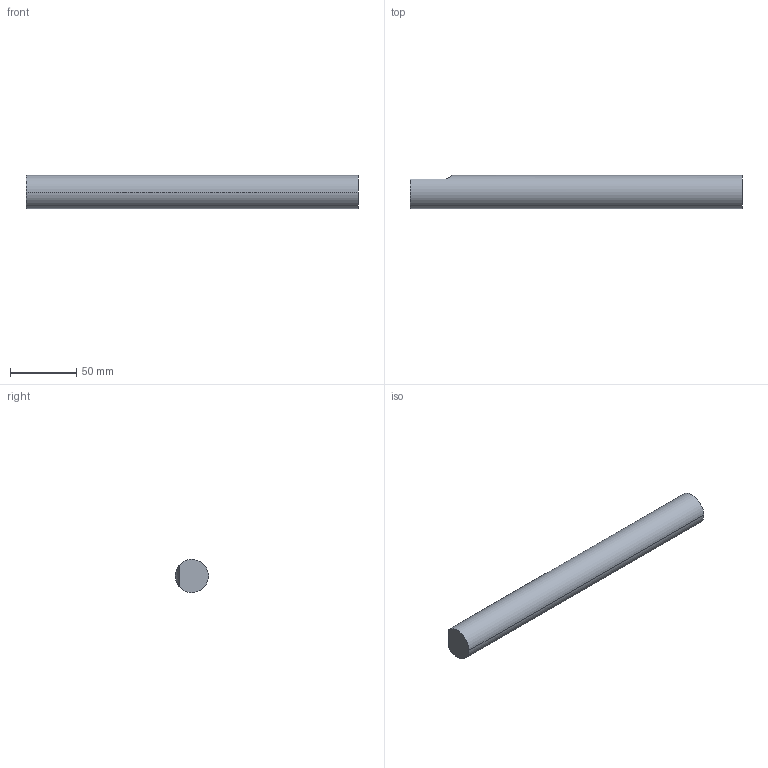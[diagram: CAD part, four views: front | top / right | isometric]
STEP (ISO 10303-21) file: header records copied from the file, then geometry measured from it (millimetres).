
FILE_DESCRIPTION( (''), '2;1');
FILE_NAME ('SY-2080-05_TH-25251-C.stp','2022-04-09T08:57:10',(''),(''),'spGate 18.9.3 (****-****-****-****)','','');
FILE_SCHEMA (('AUTOMOTIVE_DESIGN'));
Length unit declared in the file: millimetre
Products named in the file (2): Assembly; SY-2080-05_TH-25251-C-prt0
Assembly tree (1 placements, depth 2):
  Assembly
    SY-2080-05_TH-25251-C-prt0
Bounding box: 250 x 25 x 25 mm (x, y, z)
Volume: 103513.7 mm3; surface area: 27860.6 mm2
Topology: 1 solids, 1 shells, 21 faces, 46 edges, 26 vertices
Faces by surface type: bspline 10, cylinder 7, plane 4
Entity records: 1032 total; most frequent: CARTESIAN_POINT 245, ORIENTED_EDGE 84, DIRECTION 74, COLOUR_RGB 64, PRESENTATION_STYLE_ASSIGNMENT 64, STYLED_ITEM 64, EDGE_CURVE 42, DRAUGHTING_PRE_DEFINED_CURVE_FONT 42
